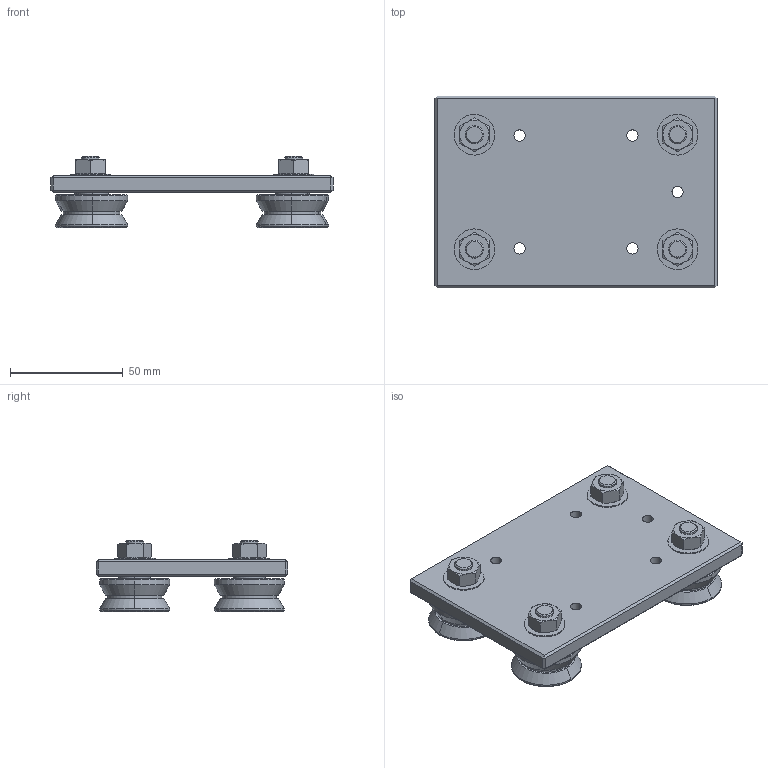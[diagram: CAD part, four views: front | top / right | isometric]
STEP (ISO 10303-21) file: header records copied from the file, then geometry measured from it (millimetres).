
FILE_DESCRIPTION (( 'STEP AP203' ), '1' );
FILE_NAME ('Laufwagen LW3.STEP', '2005-06-07T08:21:39', ( ' ' ), ( ' ' ), 'SwSTEP 2.0', 'SolidWorks 2005143', '' );
FILE_SCHEMA (( 'CONFIG_CONTROL_DESIGN' ));
Length unit declared in the file: millimetre
Products named in the file (1): Laufwagen LW3
Bounding box: 125 x 85 x 31.5 mm (x, y, z)
Volume: 122030.7 mm3; surface area: 37617.5 mm2
Topology: 1 solids, 5 shells, 288 faces, 614 edges, 372 vertices
Faces by surface type: plane 118, cone 88, cylinder 82
Entity records: 8151 total; most frequent: CARTESIAN_POINT 1819, DIRECTION 1348, ORIENTED_EDGE 1228, EDGE_CURVE 614, AXIS2_PLACEMENT_3D 541, VERTEX_POINT 372, EDGE_LOOP 342, ADVANCED_FACE 288
